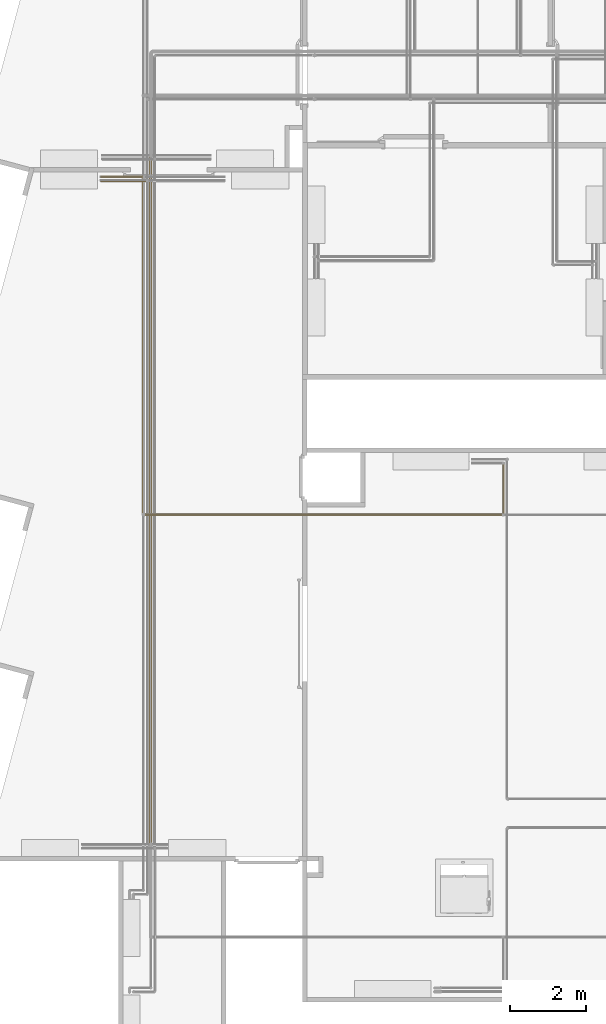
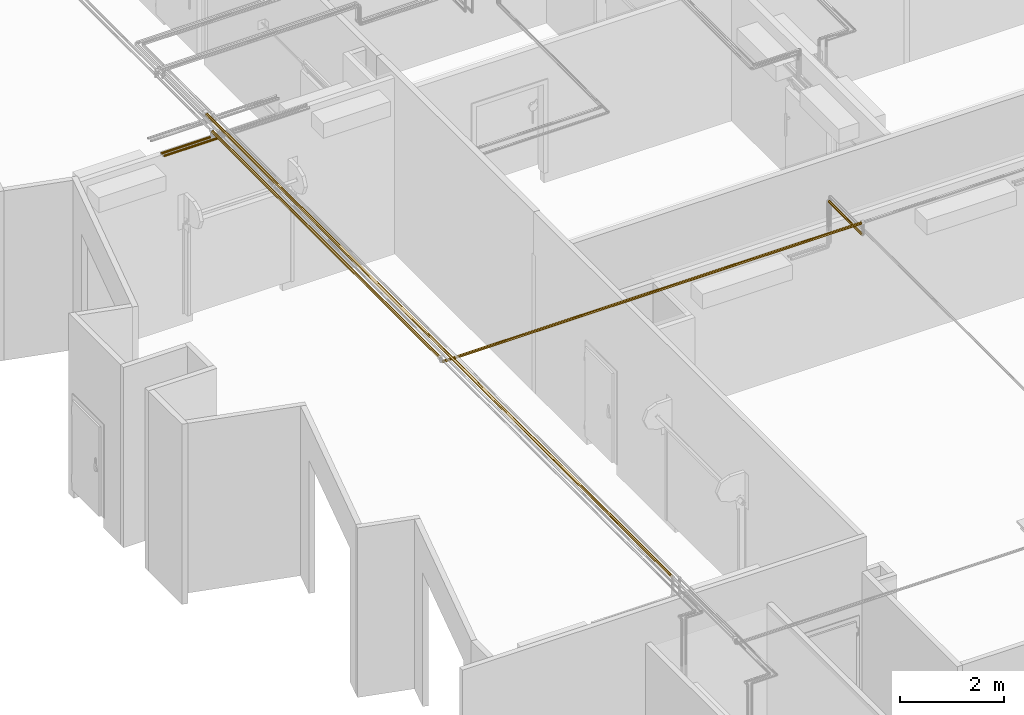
# One storey, part 85 of 652: 6 coverings.
"""IFC2X3 building model written with IfcOpenShell, lengths in millimetres."""

from ifc_helpers import new_model, entity, si_unit, converted_unit, direction, frame, origin, place, context, subcontext, project, spatial, faceted_brep, material, type_object, element, save


model = new_model("IFC2X3")

# Units and contexts
model_context = context("Model", 3, precision=0.01, world=frame((0.0, 0.0, 308426.39999999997)), true_north=direction((6.123233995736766e-17, 1.0)))
plan_context = context("Plan", 3, precision=0.01, world=frame((0.0, 0.0, 308426.39999999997)), true_north=direction((6.123233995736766e-17, 1.0)))
body_context = subcontext(model_context, "Body", "Model", "MODEL_VIEW")
ifc_project = project(units=[si_unit("LENGTHUNIT", "METRE", prefix="MILLI"), si_unit("AREAUNIT", "SQUARE_METRE"), si_unit("VOLUMEUNIT", "CUBIC_METRE"), converted_unit("PLANEANGLEUNIT", "DEGREE", entity("IfcPlaneAngleMeasure", 0.017453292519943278), si_unit("PLANEANGLEUNIT", "RADIAN"), dimensions=[0, 0, 0, 0, 0, 0, 0])], contexts=[model_context, plan_context])

# Site, building, storey
site_placement = place(None, origin())
site = spatial("IfcSite", under=ifc_project, at=site_placement, Name="Default", CompositionType="ELEMENT")
building_placement = place(site_placement, origin())
building = spatial("IfcBuilding", under=site, at=building_placement, CompositionType="ELEMENT")
storey_placement = place(building_placement, frame((0.0, 0.0, 1730.6999999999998)))
storey = spatial("IfcBuildingStorey", under=building, at=storey_placement, Name="EG_Produktion_FFB", CompositionType="ELEMENT", Elevation=1730.6999999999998)

# Coverings
ifc_material = material(Name="Dämmung - Armaflex-Schlauch")
covering_type = type_object("IfcCoveringType", Name="Rohrdämmung außen:Armaflex-Schlauch", PredefinedType="INSULATION")
covering_1_placement = place(storey_placement, frame((14955.117227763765, 49015.74774999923, 4234.882772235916)))
element("IfcCovering", 1, at=covering_1_placement, inside=storey, type_object=covering_type, material=ifc_material, Name="Rohrdämmung außen:Armaflex-Schlauch", ObjectType="Rohrdämmung außen:Armaflex-Schlauch", PredefinedType="INSULATION", context=body_context, shape_type="Brep", body=[
    faceted_brep([(17.229409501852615, 0.0, -60.85800996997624), (23.113863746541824, 0.0, -63.295430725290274), (28.99831799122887, 0.0, -65.73285148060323), (34.882772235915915, 0.0, -68.1702722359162), (42.58005937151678, 0.0, -64.98195151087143), (46.65168072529, 0.0, -63.295430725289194), (52.536134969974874, 0.0, -60.85800996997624), (58.42058921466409, 0.0, -58.42058921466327), (60.85800996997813, 0.0, -52.53613496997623), (63.295430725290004, 0.0, -46.65168072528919), (65.73285148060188, 0.0, -40.76722648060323), (68.17027223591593, 0.0, -34.882772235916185), (64.98195151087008, 0.0, -27.185485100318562), (63.295430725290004, 0.0, -23.113863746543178), (60.85800996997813, 0.0, -17.229409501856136), (58.42058921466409, 0.0, -11.344955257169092), (52.53613496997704, 0.0, -8.907534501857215), (46.65168072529, 0.0, -6.470113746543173), (40.76722648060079, 0.0, -4.0326929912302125), (34.882772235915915, 0.0, -1.5952722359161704), (27.18548510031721, 0.0, -4.783592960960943), (23.113863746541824, 0.0, -6.470113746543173), (17.229409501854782, 0.0, -8.907534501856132), (11.344955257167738, 0.0, -11.344955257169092), (8.907534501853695, 0.0, -17.229409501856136), (6.470113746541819, 0.0, -23.113863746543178), (4.0326929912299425, 0.0, -28.99831799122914), (1.5952722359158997, 0.0, -34.882772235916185), (4.0326929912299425, 0.0, -40.76722648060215), (6.470113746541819, 0.0, -46.65168072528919), (8.907534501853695, 0.0, -52.53613496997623), (11.344955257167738, 0.0, -58.42058921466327), (1.5952722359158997, 8761.410340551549, -34.882772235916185), (4.78359296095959, 8761.410340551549, -27.1854851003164), (7.97191368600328, 8761.410340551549, -19.488197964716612), (11.344955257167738, 8761.410340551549, -11.344955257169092), (17.229409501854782, 8761.41034055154, -8.907534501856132), (23.113863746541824, 8761.410340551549, -6.470113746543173), (28.998317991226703, 8761.41034055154, -4.03269299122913), (34.882772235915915, 8761.410340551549, -1.5952722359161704), (42.58005937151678, 8761.410340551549, -4.783592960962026), (50.27734650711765, 8761.410340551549, -7.971913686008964), (58.42058921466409, 8761.410340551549, -11.344955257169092), (60.85800996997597, 8761.41034055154, -17.229409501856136), (63.295430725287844, 8761.41034055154, -23.113863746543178), (65.73285148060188, 8761.41034055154, -28.998317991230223), (68.17027223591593, 8761.410340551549, -34.882772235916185), (64.98195151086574, 8761.410340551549, -42.5800593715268), (61.79363078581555, 8761.410340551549, -50.277346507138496), (58.42058921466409, 8761.410340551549, -58.42058921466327), (52.53613496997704, 8761.410340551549, -60.85800996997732), (46.65168072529, 8761.410340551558, -63.295430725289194), (40.767226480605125, 8761.410340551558, -65.73285148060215), (34.882772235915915, 8761.410340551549, -68.1702722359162), (27.185485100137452, 8761.410340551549, -64.9819515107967), (19.48819796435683, 8761.410340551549, -61.793630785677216), (11.344955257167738, 8761.410340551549, -58.42058921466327), (8.907534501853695, 8761.410340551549, -52.53613496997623), (6.470113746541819, 8761.410340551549, -46.65168072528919), (4.0326929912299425, 8761.410340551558, -40.76722648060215)], [[[0, 1, 2, 3, 4, 5, 6, 7, 8, 9, 10, 11, 12, 13, 14, 15, 16, 17, 18, 19, 20, 21, 22, 23, 24, 25, 26, 27, 28, 29, 30, 31]], [[32, 33, 34, 35, 36, 37, 38, 39, 40, 41, 42, 43, 44, 45, 46, 47, 48, 49, 50, 51, 52, 53, 54, 55, 56, 57, 58, 59]], [[58, 57, 56, 31, 30, 29, 28, 27, 32, 59]], [[56, 55, 54, 53, 3, 2, 1, 0, 31]], [[9, 8, 7, 49, 48, 47, 46, 11, 10]], [[6, 5, 4, 3, 53, 52, 51, 50, 49, 7]], [[17, 16, 15, 42, 41, 40, 39, 19, 18]], [[14, 13, 12, 11, 46, 45, 44, 43, 42, 15]], [[25, 24, 23, 35, 34, 33, 32, 27, 26]], [[22, 21, 20, 19, 39, 38, 37, 36, 35, 23]]]),
])
covering_2_placement = place(storey_placement, frame((15149.310930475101, 40380.74774999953, 4165.117227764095)))
element("IfcCovering", 2, at=covering_2_placement, inside=storey, type_object=covering_type, material=ifc_material, Name="Rohrdämmung außen:Armaflex-Schlauch", ObjectType="Rohrdämmung außen:Armaflex-Schlauch", PredefinedType="INSULATION", context=body_context, shape_type="Brep", body=[
    faceted_brep([(17.229409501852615, 17956.410340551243, 60.85800996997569), (23.113863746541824, 17956.410340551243, 63.295430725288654), (28.998317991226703, 17956.410340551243, 65.73285148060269), (34.882772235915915, 17956.410340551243, 68.17027223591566), (40.68671559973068, 17956.410340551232, 65.76620017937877), (46.65168072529, 17956.410340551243, 63.295430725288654), (52.53613496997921, 17956.410340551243, 60.85800996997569), (58.42058921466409, 17956.410340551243, 58.42058921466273), (60.85800996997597, 17956.410340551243, 52.53613496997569), (63.295430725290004, 17956.410340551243, 46.65168072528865), (65.73285148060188, 17956.410340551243, 40.76722648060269), (68.17027223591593, 17956.410340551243, 34.88277223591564), (65.73285148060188, 17956.410340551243, 28.9983179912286), (63.295430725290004, 17956.410340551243, 23.113863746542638), (60.85800996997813, 17956.410340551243, 17.229409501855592), (58.42058921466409, 17956.410340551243, 11.34495525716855), (52.53613496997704, 17956.410340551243, 8.90753450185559), (46.65168072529, 17956.410340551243, 6.470113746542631), (40.76722648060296, 17956.410340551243, 4.032692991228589), (34.882772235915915, 17956.410340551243, 1.595272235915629), (29.07882887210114, 17956.410340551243, 3.999344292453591), (23.113863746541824, 17956.410340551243, 6.470113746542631), (17.229409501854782, 17956.410340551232, 8.90753450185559), (11.344955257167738, 17956.410340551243, 11.34495525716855), (8.907534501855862, 17956.410340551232, 17.229409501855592), (6.470113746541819, 17956.410340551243, 23.113863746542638), (4.032692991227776, 17956.41034055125, 28.9983179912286), (1.5952722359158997, 17956.410340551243, 34.88277223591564), (3.9993442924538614, 17956.410340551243, 40.68671559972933), (6.470113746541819, 17956.410340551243, 46.65168072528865), (8.907534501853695, 17956.410340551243, 52.53613496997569), (11.344955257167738, 17956.410340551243, 58.42058921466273), (1.5952722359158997, 0.0, 34.88277223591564), (3.999344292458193, 0.0, 29.078828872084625), (6.403416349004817, 0.0, 23.27488550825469), (8.874185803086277, 0.0, 17.30992038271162), (11.344955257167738, 0.0, 11.34495525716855), (17.229409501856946, 0.0, 8.90753450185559), (23.113863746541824, 0.0, 6.470113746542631), (28.998317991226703, 0.0, 4.032692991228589), (34.882772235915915, 0.0, 1.595272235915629), (40.68671559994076, 0.0, 3.999344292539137), (46.49065896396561, 0.0, 6.403416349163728), (52.455624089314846, 0.0, 8.874185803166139), (58.42058921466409, 0.0, 11.34495525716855), (60.85800996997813, 0.0, 17.229409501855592), (63.295430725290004, 0.0, 23.113863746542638), (65.76620017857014, 0.0, 29.078828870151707), (68.17027223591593, 0.0, 34.88277223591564), (65.76620017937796, 0.0, 40.6867155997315), (63.362128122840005, 0.0, 46.490658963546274), (60.89135866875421, 0.0, 52.455624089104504), (58.42058921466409, 0.0, 58.42058921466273), (52.53613496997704, 0.0, 60.85800996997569), (46.65168072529, 0.0, 63.295430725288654), (40.76722648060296, 0.0, 65.73285148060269), (34.882772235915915, 0.0, 68.17027223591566), (29.078828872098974, 0.0, 65.76620017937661), (23.27488550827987, 0.0, 63.36212812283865), (17.30992038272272, 0.0, 60.89135866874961), (11.344955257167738, 0.0, 58.42058921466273), (8.907534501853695, 0.0, 52.53613496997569), (6.470113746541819, 0.0, 46.65168072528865), (4.0326929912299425, 0.0, 40.76722648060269), (66.91007242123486, 9188.720289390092, 25.810302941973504), (62.56031695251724, 8978.20516878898, 16.38922809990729), (68.17027223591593, 6446.560243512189, 34.88277223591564), (53.37631636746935, 9817.792476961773, 7.205227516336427), (43.955241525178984, 9188.720292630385, 2.8554720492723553), (34.882772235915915, 6446.776965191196, 1.595272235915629), (58.31056992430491, 6981.151808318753, 11.235447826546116), (34.882772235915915, 11509.708332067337, 1.595272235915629), (25.81030294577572, 8767.690047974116, 2.855472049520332), (2.855472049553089, 9188.720292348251, 25.810302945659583), (16.389228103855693, 8978.205170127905, 7.2052275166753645), (7.205227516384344, 9817.792479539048, 16.389228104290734), (1.5952722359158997, 6446.56023689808, 34.88277223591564), (11.235447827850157, 6981.1518098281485, 11.454974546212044), (1.5952722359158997, 11509.850103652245, 34.88277223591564), (2.8554720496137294, 8767.69004821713, 43.95524152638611), (25.81030294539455, 9188.720292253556, 66.91007242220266), (7.205227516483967, 8978.205170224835, 53.3763163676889), (16.389228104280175, 9817.792480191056, 62.56031695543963), (34.882772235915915, 6446.560236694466, 68.17027223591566), (11.454974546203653, 6981.151809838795, 58.53009664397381), (34.882772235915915, 11509.85010385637, 68.17027223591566), (43.9552415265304, 8767.690048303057, 66.91007242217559), (66.91007242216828, 9188.720292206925, 43.9552415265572), (53.37631636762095, 8978.205170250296, 62.56031695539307), (62.56031695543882, 9817.792480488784, 53.37631636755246), (58.530096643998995, 6981.151809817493, 58.310569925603)], [[[0, 1, 2, 3, 4, 5, 6, 7, 8, 9, 10, 11, 12, 13, 14, 15, 16, 17, 18, 19, 20, 21, 22, 23, 24, 25, 26, 27, 28, 29, 30, 31]], [[32, 33, 34, 35, 36, 37, 38, 39, 40, 41, 42, 43, 44, 45, 46, 47, 48, 49, 50, 51, 52, 53, 54, 55, 56, 57, 58, 59, 60, 61, 62, 63]], [[64, 46, 65]], [[65, 46, 45]], [[64, 12, 66]], [[65, 15, 14, 13]], [[17, 67, 68]], [[68, 41, 69]], [[69, 18, 68]], [[70, 43, 67]], [[68, 42, 41]], [[68, 67, 42]], [[41, 40, 69]], [[18, 69, 71, 19]], [[67, 17, 16, 15]], [[70, 15, 65]], [[67, 43, 42]], [[46, 64, 47]], [[65, 45, 70]], [[66, 48, 47]], [[12, 11, 66]], [[64, 65, 13]], [[66, 47, 64]], [[18, 17, 68]], [[43, 70, 44]], [[44, 70, 45]], [[15, 70, 67]], [[64, 13, 12]], [[71, 39, 72]], [[73, 34, 33]], [[74, 38, 37]], [[25, 75, 73]], [[76, 26, 73]], [[73, 75, 34]], [[77, 35, 75]], [[73, 33, 76]], [[72, 21, 20]], [[33, 32, 76]], [[26, 76, 78, 27]], [[75, 25, 24, 23]], [[74, 23, 22, 21]], [[75, 35, 34]], [[74, 37, 77]], [[77, 23, 74]], [[21, 72, 74]], [[72, 20, 71]], [[20, 19, 71]], [[39, 71, 69, 40]], [[72, 38, 74]], [[26, 25, 73]], [[35, 77, 36]], [[77, 37, 36]], [[23, 77, 75]], [[39, 38, 72]], [[78, 63, 79]], [[80, 58, 57]], [[81, 62, 61]], [[1, 82, 80]], [[83, 2, 80]], [[80, 82, 58]], [[84, 59, 82]], [[80, 57, 83]], [[79, 29, 28]], [[57, 56, 83]], [[2, 83, 85, 3]], [[82, 1, 0, 31]], [[81, 31, 30, 29]], [[82, 59, 58]], [[81, 61, 84]], [[84, 31, 81]], [[29, 79, 81]], [[79, 28, 78]], [[28, 27, 78]], [[63, 78, 76, 32]], [[79, 62, 81]], [[2, 1, 80]], [[59, 84, 60]], [[84, 61, 60]], [[31, 84, 82]], [[63, 62, 79]], [[85, 55, 86]], [[87, 50, 49]], [[88, 54, 53]], [[9, 89, 87]], [[66, 10, 87]], [[87, 89, 50]], [[90, 51, 89]], [[87, 49, 66]], [[86, 5, 4]], [[49, 48, 66]], [[10, 66, 11]], [[89, 9, 8, 7]], [[88, 7, 6, 5]], [[89, 51, 50]], [[88, 53, 90]], [[90, 7, 88]], [[5, 86, 88]], [[86, 4, 85]], [[4, 3, 85]], [[55, 85, 83, 56]], [[86, 54, 88]], [[10, 9, 87]], [[51, 90, 52]], [[90, 53, 52]], [[7, 90, 89]], [[55, 54, 86]]]),
])
covering_3_placement = place(storey_placement, frame((13871.000999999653, 57695.96056831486, 4023.0547277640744)))
element("IfcCovering", 3, at=covering_3_placement, inside=storey, type_object=covering_type, material=ifc_material, Name="Rohrdämmung außen:Armaflex-Schlauch", ObjectType="Rohrdämmung außen:Armaflex-Schlauch", PredefinedType="INSULATION", context=body_context, shape_type="Brep", body=[
    faceted_brep([(1195.0, 26.94527223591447, 1.5952722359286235), (1195.0, 31.63339518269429, 3.537156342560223), (1195.0, 35.90785068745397, 5.307693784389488), (1195.0, 40.38913991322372, 7.163904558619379), (1195.0, 44.87042913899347, 9.020115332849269), (1195.0, 46.7266399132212, 13.50140455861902), (1195.0, 48.58285068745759, 17.982693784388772), (1195.0, 50.35338812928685, 22.257149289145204), (1195.0, 52.29527223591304, 26.945272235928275), (1195.0, 50.44194884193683, 31.683041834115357), (1195.0, 48.58862544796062, 36.42081143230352), (1195.0, 45.56667057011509, 44.14602873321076), (1195.0, 40.33857164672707, 47.54515048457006), (1195.0, 35.110472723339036, 50.94427223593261), (1195.0, 18.780071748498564, 50.944272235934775), (1195.0, 15.25118509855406, 47.96725702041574), (1195.0, 11.722298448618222, 44.9902418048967), (1195.0, 8.193411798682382, 42.013226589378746), (1195.0, 4.66452514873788, 39.03621137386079), (1195.0, 3.1298986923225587, 32.99074180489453), (1195.0, 1.5952722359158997, 26.945272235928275), (1195.0, 3.4514830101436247, 22.463983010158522), (1195.0, 5.30769378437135, 17.982693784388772), (1195.0, 7.1639045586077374, 13.50140455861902), (1195.0, 9.020115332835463, 9.020115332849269), (1195.0, 13.501404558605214, 7.163904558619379), (1195.0, 17.982693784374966, 5.307693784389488), (1195.0, 22.257149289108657, 3.5371563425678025), (0.0, 40.38913991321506, 7.163904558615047), (0.0, 35.90785068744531, 5.307693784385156), (0.0, 31.42656146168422, 3.4514830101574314), (0.0, 26.94527223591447, 1.595272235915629), (0.0, 22.257149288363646, 3.5371563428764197), (0.0, 17.569026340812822, 5.479040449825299), (0.0, 13.29457083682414, 7.249577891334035), (0.0, 9.020115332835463, 9.020115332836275), (0.0, 7.1639045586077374, 13.501404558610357), (0.0, 5.307693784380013, 17.982693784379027), (0.0, 3.4514830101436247, 22.463983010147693), (0.0, 1.5952722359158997, 26.94527223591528), (0.0, 3.5371563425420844, 31.63339518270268), (0.0, 5.30769378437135, 35.90785068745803), (0.0, 7.163904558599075, 40.38913991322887), (0.0, 9.020115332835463, 44.87042913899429), (0.0, 13.501404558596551, 46.72663991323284), (0.0, 17.9826937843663, 48.5828506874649), (0.0, 22.463983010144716, 50.43906146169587), (0.0, 26.94527223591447, 52.29527223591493), (0.0, 31.42656146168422, 50.43906146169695), (0.0, 35.907850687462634, 48.5828506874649), (0.0, 40.389139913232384, 46.72663991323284), (0.0, 44.87042913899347, 44.87042913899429), (0.0, 46.72663991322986, 40.38913991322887), (0.0, 48.58285068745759, 35.90785068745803), (0.0, 50.353388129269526, 31.63339518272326), (0.0, 52.29527223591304, 26.94527223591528), (0.0, 50.353388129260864, 22.25714928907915), (0.0, 48.41150402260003, 17.569026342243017), (0.0, 46.64096658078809, 13.294570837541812), (0.0, 44.87042913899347, 9.020115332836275), (1193.989030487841, 31.083378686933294, 51.955241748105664), (1193.6490000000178, 26.94527223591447, 52.295272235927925), (1193.989030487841, 22.807165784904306, 51.95524174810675)], [[[0, 1, 2, 3, 4, 5, 6, 7, 8, 9, 10, 11, 12, 13, 14, 15, 16, 17, 18, 19, 20, 21, 22, 23, 24, 25, 26, 27]], [[28, 29, 30, 31, 32, 33, 34, 35, 36, 37, 38, 39, 40, 41, 42, 43, 44, 45, 46, 47, 48, 49, 50, 51, 52, 53, 54, 55, 56, 57, 58, 59]], [[37, 36, 35, 24, 23, 22, 21, 20, 39, 38]], [[24, 35, 34, 33, 32, 31, 0, 27, 26, 25]], [[0, 31, 30, 29, 28, 59, 4, 3, 2, 1]], [[4, 59, 58, 57, 56, 55, 8, 7, 6, 5]], [[11, 52, 51]], [[48, 47, 60]], [[53, 10, 9]], [[8, 55, 9]], [[12, 51, 50, 49]], [[53, 9, 55, 54]], [[48, 13, 49]], [[13, 48, 60]], [[10, 52, 11]], [[47, 61, 60]], [[51, 12, 11]], [[10, 53, 52]], [[12, 49, 13]], [[46, 45, 14]], [[40, 39, 20]], [[44, 16, 15]], [[47, 62, 61]], [[43, 16, 44]], [[14, 62, 46]], [[41, 19, 18]], [[45, 44, 15]], [[17, 42, 18]], [[40, 20, 19]], [[17, 16, 43]], [[19, 41, 40]], [[45, 15, 14]], [[62, 47, 46]], [[42, 17, 43]], [[42, 41, 18]], [[60, 61, 62, 14, 13]]]),
])
covering_4_placement = place(storey_placement, frame((24386.075710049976, 49001.98374999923, 3771.467227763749)))
element("IfcCovering", 4, at=covering_4_placement, inside=storey, type_object=covering_type, material=ifc_material, Name="Rohrdämmung außen:Armaflex-Schlauch", ObjectType="Rohrdämmung außen:Armaflex-Schlauch", PredefinedType="INSULATION", context=body_context, shape_type="Brep", body=[
    faceted_brep([(9.485083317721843, 1288.069057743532, 9.485083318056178), (7.512630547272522, 1288.069057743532, 14.247005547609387), (5.540177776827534, 1288.069057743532, 19.008927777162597), (3.5686991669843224, 1288.069057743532, 23.768498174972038), (1.5952722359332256, 1288.0690577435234, 28.532772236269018), (3.5686991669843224, 1288.0690577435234, 33.29704629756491), (5.5421260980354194, 1288.0690577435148, 38.06132035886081), (7.513604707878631, 1288.0690577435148, 42.82089075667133), (9.485083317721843, 1288.0690577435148, 47.58046115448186), (14.247005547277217, 1288.0690577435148, 49.55291392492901), (19.008927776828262, 1288.0690577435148, 51.525366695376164), (23.768498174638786, 1288.0690577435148, 53.496845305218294), (28.532772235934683, 1288.0690577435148, 55.47027223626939), (33.29704629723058, 1288.0690577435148, 53.496845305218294), (38.0566166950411, 1288.0690577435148, 51.525366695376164), (42.81853892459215, 1288.0690577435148, 49.55291392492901), (47.58046115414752, 1288.0690577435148, 47.58046115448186), (49.552913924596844, 1288.0690577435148, 42.818538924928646), (51.52536669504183, 1288.0690577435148, 38.05661669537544), (53.49684530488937, 1288.0690577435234, 33.29704629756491), (55.470272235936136, 1288.0690577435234, 28.532772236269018), (53.49781946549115, 1288.069057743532, 23.770850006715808), (51.52536669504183, 1288.069057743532, 19.008927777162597), (49.552913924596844, 1288.069057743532, 14.247005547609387), (47.58046115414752, 1288.069057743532, 9.485083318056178), (42.81853892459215, 1288.069057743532, 7.512630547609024), (38.05661669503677, 1288.069057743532, 5.540177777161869), (33.29704629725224, 1288.069057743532, 3.5686991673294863), (28.532772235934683, 1288.069057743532, 1.5952722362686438), (23.768498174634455, 1288.069057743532, 3.5686991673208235), (19.008927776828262, 1288.069057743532, 5.540177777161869), (14.247005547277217, 1288.069057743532, 7.512630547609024), (47.580461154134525, 0.0, 47.58046115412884), (42.81853892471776, 0.0, 49.55291392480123), (38.05661669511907, 0.0, 51.52536669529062), (33.29469446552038, 0.0, 53.497819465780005), (28.532772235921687, 0.0, 55.470272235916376), (23.76849817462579, 0.0, 53.49684530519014), (19.004224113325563, 0.0, 51.5234183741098), (14.244653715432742, 0.0, 49.55193976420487), (9.485083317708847, 0.0, 47.58046115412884), (7.512630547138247, 0.0, 42.81853892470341), (5.540177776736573, 0.0, 38.05661669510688), (3.5677250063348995, 0.0, 33.29469446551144), (1.5952722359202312, 0.0, 28.532772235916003), (3.5686991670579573, 0.0, 23.76849817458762), (5.542126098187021, 0.0, 19.004224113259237), (7.513604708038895, 0.0, 14.244653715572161), (9.485083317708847, 0.0, 9.485083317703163), (14.2470055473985, 0.0, 7.512630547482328), (19.00892777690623, 0.0, 5.540177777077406), (23.77085000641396, 0.0, 3.5677250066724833), (28.532772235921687, 0.0, 1.595272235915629), (33.29704629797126, 0.0, 3.5686991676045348), (38.061320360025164, 0.0, 5.542126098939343), (42.82089075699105, 0.0, 7.513604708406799), (47.580461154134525, 0.0, 9.485083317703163), (49.55291392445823, 0.0, 14.24700554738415), (51.52536669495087, 0.0, 19.008927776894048), (53.497819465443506, 0.0, 23.770850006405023), (55.47027223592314, 0.0, 28.532772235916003), (53.496845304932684, 0.0, 33.297046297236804), (51.523418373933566, 0.0, 38.06132035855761), (49.55193976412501, 0.0, 42.82089075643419)], [[[0, 1, 2, 3, 4, 5, 6, 7, 8, 9, 10, 11, 12, 13, 14, 15, 16, 17, 18, 19, 20, 21, 22, 23, 24, 25, 26, 27, 28, 29, 30, 31]], [[32, 33, 34, 35, 36, 37, 38, 39, 40, 41, 42, 43, 44, 45, 46, 47, 48, 49, 50, 51, 52, 53, 54, 55, 56, 57, 58, 59, 60, 61, 62, 63]], [[58, 57, 56, 24, 23, 22, 21, 20, 60, 59]], [[24, 56, 55, 54, 53, 52, 28, 27, 26, 25]], [[28, 52, 51, 50, 49, 48, 0, 31, 30, 29]], [[0, 48, 47, 46, 45, 44, 4, 3, 2, 1]], [[40, 8, 7, 6, 5, 4, 44, 43, 42, 41]], [[8, 40, 39, 38, 37, 36, 12, 11, 10, 9]], [[12, 36, 35, 34, 33, 32, 16, 15, 14, 13]], [[16, 32, 63, 62, 61, 60, 20, 19, 18, 17]]]),
])
covering_5_placement = place(storey_placement, frame((15036.017249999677, 48938.292227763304, 4068.2922277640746)))
element("IfcCovering", 5, at=covering_5_placement, inside=storey, type_object=covering_type, material=ifc_material, Name="Rohrdämmung außen:Armaflex-Schlauch", ObjectType="Rohrdämmung außen:Armaflex-Schlauch", PredefinedType="INSULATION", context=body_context, shape_type="Brep", body=[
    faceted_brep([(9341.542982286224, 61.82027223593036, 31.70777223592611), (9341.542982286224, 59.24741400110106, 37.919201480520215), (9341.542982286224, 57.410398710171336, 42.35414871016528), (9341.542982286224, 55.205461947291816, 47.677336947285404), (9341.542982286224, 53.000525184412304, 53.00052518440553), (9341.542982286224, 47.677336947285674, 55.20546194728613), (9341.542982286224, 42.35414871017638, 57.410398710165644), (9341.542982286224, 37.03096047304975, 59.615335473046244), (9341.542982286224, 31.707772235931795, 61.82027223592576), (9341.542982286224, 25.496342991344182, 59.24741400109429), (9341.542982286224, 21.06139576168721, 57.410398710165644), (9341.542982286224, 15.738207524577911, 55.20546194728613), (9341.542982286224, 10.415019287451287, 53.00052518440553), (9341.542982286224, 8.210082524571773, 47.677336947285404), (9341.542982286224, 6.005145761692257, 42.35414871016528), (9341.542982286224, 3.800208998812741, 37.030960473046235), (9341.542982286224, 1.5952722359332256, 31.70777223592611), (9341.542982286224, 3.800208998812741, 26.384583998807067), (9341.542982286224, 6.005145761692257, 21.06139576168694), (9341.542982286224, 8.210082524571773, 15.738207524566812), (9341.542982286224, 10.415019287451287, 10.415019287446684), (9341.542982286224, 15.738207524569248, 8.21008252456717), (9341.542982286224, 21.06139576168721, 6.005145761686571), (9341.542982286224, 26.384583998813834, 3.800208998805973), (9341.542982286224, 31.707772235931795, 1.5952722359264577), (9341.542982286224, 37.919201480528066, 4.168130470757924), (9341.542982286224, 42.35414871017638, 6.005145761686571), (9341.542982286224, 47.677336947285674, 8.210082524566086), (9341.542982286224, 53.000525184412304, 10.415019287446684), (9341.542982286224, 55.205461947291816, 15.738207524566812), (9341.542982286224, 57.410398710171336, 21.061395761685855), (9341.542982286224, 59.61533547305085, 26.384583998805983), (0.0, 47.677336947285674, 8.210082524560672), (0.0, 42.35414871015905, 6.005145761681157), (0.0, 37.03096047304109, 3.8002089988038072), (0.0, 31.70777223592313, 1.595272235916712), (0.0, 25.49634299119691, 4.168130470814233), (0.0, 19.284913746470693, 6.740988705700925), (0.0, 10.415019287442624, 10.41501928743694), (0.0, 8.210082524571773, 15.738207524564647), (0.0, 6.005145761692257, 21.061395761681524), (0.0, 3.800208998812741, 26.384583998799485), (0.0, 1.5952722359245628, 31.707772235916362), (0.0, 4.168130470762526, 37.91920148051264), (0.0, 6.7409887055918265, 44.13063072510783), (0.0, 10.415019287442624, 53.00052518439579), (0.0, 15.738207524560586, 55.20546194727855), (0.0, 21.06139576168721, 57.41039871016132), (0.0, 26.38458399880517, 59.615335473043), (0.0, 31.70777223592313, 61.820272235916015), (0.0, 37.919201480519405, 59.24741400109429), (0.0, 44.13063072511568, 56.67455576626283), (0.0, 53.000525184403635, 53.00052518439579), (0.0, 55.205461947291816, 47.67733694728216), (0.0, 57.410398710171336, 42.35414871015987), (0.0, 59.61533547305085, 37.030960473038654), (0.0, 61.8202722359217, 31.707772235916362), (0.0, 59.2474140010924, 25.49634299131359), (0.0, 56.674555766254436, 19.284913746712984), (0.0, 53.000525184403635, 10.41501928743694)], [[[0, 1, 2, 3, 4, 5, 6, 7, 8, 9, 10, 11, 12, 13, 14, 15, 16, 17, 18, 19, 20, 21, 22, 23, 24, 25, 26, 27, 28, 29, 30, 31]], [[32, 33, 34, 35, 36, 37, 38, 39, 40, 41, 42, 43, 44, 45, 46, 47, 48, 49, 50, 51, 52, 53, 54, 55, 56, 57, 58, 59]], [[40, 39, 38, 20, 19, 18, 17, 16, 42, 41]], [[38, 37, 36, 35, 24, 23, 22, 21, 20]], [[56, 0, 31, 30, 29, 28, 59, 58, 57]], [[27, 26, 25, 24, 35, 34, 33, 32, 59, 28]], [[49, 8, 7, 6, 5, 4, 52, 51, 50]], [[3, 2, 1, 0, 56, 55, 54, 53, 52, 4]], [[42, 16, 15, 14, 13, 12, 45, 44, 43]], [[11, 10, 9, 8, 49, 48, 47, 46, 45, 12]]]),
])
covering_6_placement = place(storey_placement, frame((13871.000999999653, 57795.96056831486, 4023.0547277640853)))
element("IfcCovering", 6, at=covering_6_placement, inside=storey, type_object=covering_type, material=ifc_material, Name="Rohrdämmung außen:Armaflex-Schlauch", ObjectType="Rohrdämmung außen:Armaflex-Schlauch", PredefinedType="INSULATION", context=body_context, shape_type="Brep", body=[
    faceted_brep([(1095.0, 18.78007174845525, 50.944272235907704), (1095.0, 15.251185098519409, 47.967257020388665), (1095.0, 11.722298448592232, 44.99024180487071), (1095.0, 8.193411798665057, 42.01322658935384), (1095.0, 4.664525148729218, 39.0362113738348), (1095.0, 3.1298986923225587, 32.99074180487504), (1095.0, 1.5952722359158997, 26.94527223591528), (1095.0, 3.4514830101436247, 22.46398301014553), (1095.0, 5.307693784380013, 17.982693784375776), (1095.0, 7.163904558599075, 13.501404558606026), (1095.0, 9.020115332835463, 9.020115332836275), (1095.0, 13.501404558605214, 7.163904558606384), (1095.0, 17.982693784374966, 5.30769378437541), (1095.0, 22.463983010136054, 3.4514830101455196), (1095.0, 26.94527223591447, 1.595272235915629), (1095.0, 32.06153426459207, 3.7144973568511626), (1095.0, 35.90785068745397, 5.307693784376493), (1095.0, 40.38913991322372, 7.163904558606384), (1095.0, 44.87042913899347, 9.020115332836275), (1095.0, 46.7266399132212, 13.501404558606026), (1095.0, 48.582850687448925, 17.982693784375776), (1095.0, 50.43906146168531, 22.46398301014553), (1095.0, 52.29527223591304, 26.94527223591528), (1095.0, 50.272695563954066, 32.11571485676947), (1095.0, 48.250118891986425, 37.28615747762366), (1095.0, 45.566670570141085, 44.146028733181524), (1095.0, 40.33857164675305, 47.545150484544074), (1095.0, 35.11047272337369, 50.944272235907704), (0.0, 40.38913991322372, 7.16390455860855), (0.0, 35.90785068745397, 5.307693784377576), (0.0, 31.42656146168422, 3.4514830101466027), (0.0, 26.94527223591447, 1.5952722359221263), (0.0, 21.82901020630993, 3.714497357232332), (0.0, 16.712748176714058, 5.833722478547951), (0.0, 9.020115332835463, 9.020115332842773), (0.0, 7.163904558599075, 13.501404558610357), (0.0, 5.307693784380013, 17.98269378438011), (0.0, 3.4514830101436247, 22.463983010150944), (0.0, 1.5952722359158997, 26.945272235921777), (0.0, 3.714497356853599, 32.06153426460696), (0.0, 5.307693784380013, 35.90785068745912), (0.0, 7.1639045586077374, 40.38913991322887), (0.0, 9.020115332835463, 44.870429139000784), (0.0, 13.501404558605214, 46.72663991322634), (0.0, 17.982693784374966, 48.58285068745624), (0.0, 22.463983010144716, 50.43906146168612), (0.0, 26.94527223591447, 52.29527223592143), (0.0, 31.42656146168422, 50.43906146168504), (0.0, 35.90785068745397, 48.58285068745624), (0.0, 40.38913991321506, 46.72663991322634), (0.0, 44.87042913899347, 44.870429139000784), (0.0, 46.7266399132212, 40.38913991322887), (0.0, 48.582850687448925, 35.90785068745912), (0.0, 50.43906146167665, 31.426561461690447), (0.0, 52.29527223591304, 26.945272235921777), (0.0, 50.17604711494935, 21.82901020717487), (0.0, 48.056821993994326, 16.712748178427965), (0.0, 44.87042913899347, 9.020115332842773), (1093.9890304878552, 31.08337868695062, 51.95524174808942), (1093.6490000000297, 26.94527223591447, 52.29527223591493), (1093.9890304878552, 22.80716578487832, 51.95524174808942)], [[[0, 1, 2, 3, 4, 5, 6, 7, 8, 9, 10, 11, 12, 13, 14, 15, 16, 17, 18, 19, 20, 21, 22, 23, 24, 25, 26, 27]], [[28, 29, 30, 31, 32, 33, 34, 35, 36, 37, 38, 39, 40, 41, 42, 43, 44, 45, 46, 47, 48, 49, 50, 51, 52, 53, 54, 55, 56, 57]], [[36, 35, 34, 10, 9, 8, 7, 6, 38, 37]], [[34, 33, 32, 31, 14, 13, 12, 11, 10]], [[54, 22, 21, 20, 19, 18, 57, 56, 55]], [[17, 16, 15, 14, 31, 30, 29, 28, 57, 18]], [[25, 51, 50]], [[47, 46, 58]], [[24, 23, 52]], [[26, 50, 49, 48]], [[26, 48, 27]], [[47, 27, 48]], [[27, 47, 58]], [[22, 53, 23]], [[24, 52, 51]], [[46, 59, 58]], [[50, 26, 25]], [[25, 24, 51]], [[53, 22, 54]], [[53, 52, 23]], [[45, 44, 0]], [[39, 38, 6]], [[43, 2, 1]], [[46, 60, 59]], [[42, 2, 43]], [[0, 60, 45]], [[40, 5, 4]], [[44, 43, 1]], [[3, 41, 4]], [[39, 6, 5]], [[3, 2, 42]], [[5, 40, 39]], [[44, 1, 0]], [[60, 46, 45]], [[41, 3, 42]], [[41, 40, 4]], [[59, 60, 0, 27, 58]]]),
])

save(model, "model.ifc")
